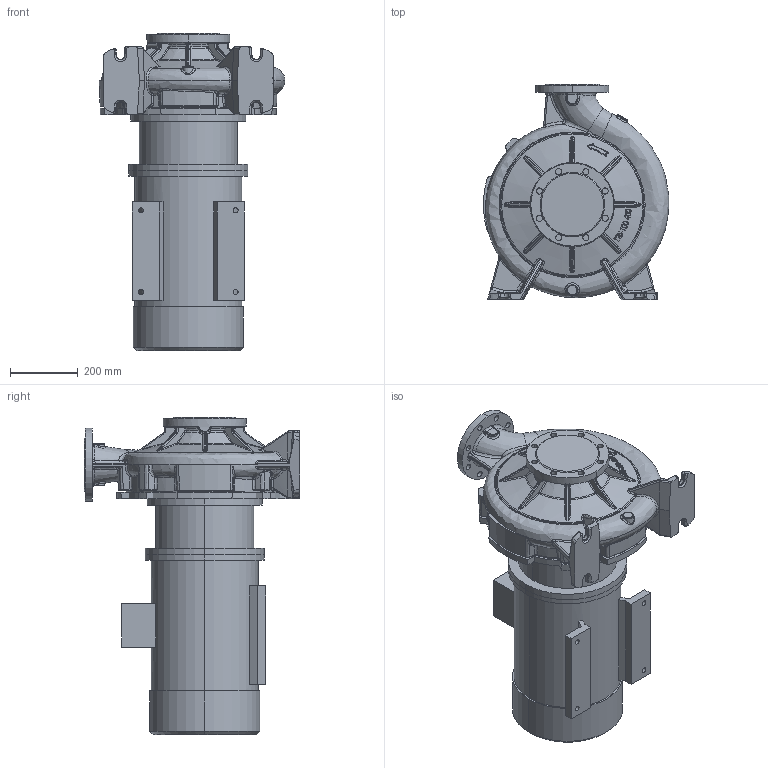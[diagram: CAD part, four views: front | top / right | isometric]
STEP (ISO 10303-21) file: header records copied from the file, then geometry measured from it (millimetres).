
FILE_DESCRIPTION (( 'STEP AP203' ), '1' );
FILE_NAME ('KRM125-400-4-18,5.STEP', '2026-08-13T09:43:48', ( '' ), ( '' ), 'SwSTEP 2.0', 'SolidWorks 2016', '' );
FILE_SCHEMA (( 'CONFIG_CONTROL_DESIGN' ));
Length unit declared in the file: millimetre
Products named in the file (1): KRM125-400-4-18,5
Bounding box: 547.08 x 635 x 935.8 mm (x, y, z)
Volume: 95961921.4 mm3; surface area: 2911770.9 mm2
Topology: 12 solids, 12 shells, 1379 faces, 3295 edges, 1953 vertices
Faces by surface type: bspline 580, plane 278, cylinder 268, torus 106, cone 92, sphere 55
Entity records: 91960 total; most frequent: CARTESIAN_POINT 64671, ORIENTED_EDGE 6524, DIRECTION 4586, EDGE_CURVE 3262, AXIS2_PLACEMENT_3D 1956, VERTEX_POINT 1953, EDGE_LOOP 1449, FACE_OUTER_BOUND 1379
